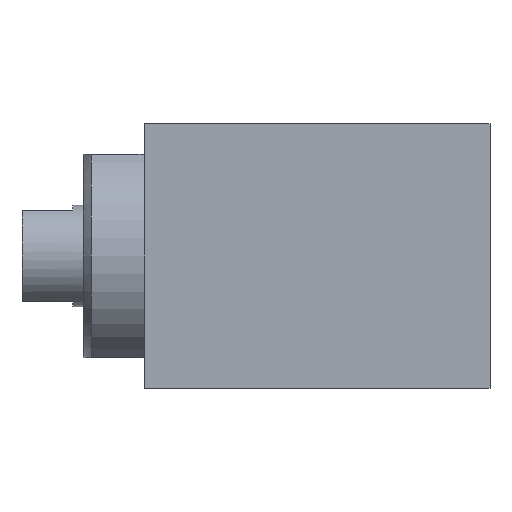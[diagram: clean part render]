
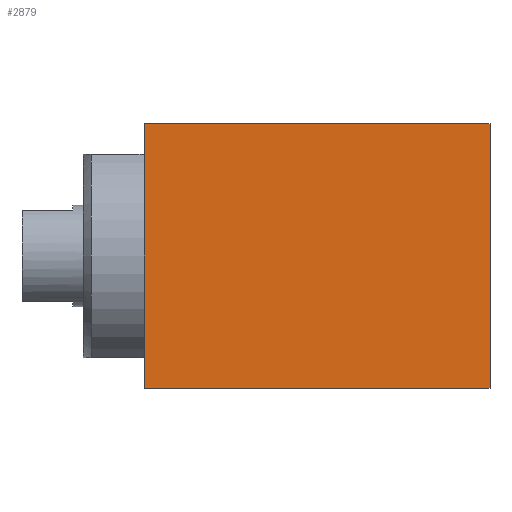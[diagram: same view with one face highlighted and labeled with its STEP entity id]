
A CAD part, front view. The second image highlights one B-rep face of the part: STEP entity #2879.
In plain terms, the highlighted planar face has unit normal (0, -1, 0).
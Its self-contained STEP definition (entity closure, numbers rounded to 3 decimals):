
#246 = DIRECTION ( 'NONE',  ( 1., 0., 0. ) ) ;
#265 = EDGE_LOOP ( 'NONE', ( #2581, #2958, #1994, #1756 ) ) ;
#394 = VERTEX_POINT ( 'NONE', #1033 ) ;
#423 = CARTESIAN_POINT ( 'NONE',  ( 17., -11., -6.5 ) ) ;
#481 = EDGE_CURVE ( 'NONE', #771, #1371, #2521, .T. ) ;
#694 = EDGE_CURVE ( 'NONE', #1371, #394, #3006, .T. ) ;
#725 = EDGE_CURVE ( 'NONE', #771, #2413, #1415, .T. ) ;
#741 = CARTESIAN_POINT ( 'NONE',  ( 0., -11., -6.5 ) ) ;
#771 = VERTEX_POINT ( 'NONE', #900 ) ;
#900 = CARTESIAN_POINT ( 'NONE',  ( 17., -11., -6.5 ) ) ;
#911 = DIRECTION ( 'NONE',  ( 0., 0., 1. ) ) ;
#1033 = CARTESIAN_POINT ( 'NONE',  ( 0., -11., 6.5 ) ) ;
#1140 = DIRECTION ( 'NONE',  ( -1., 0., 0. ) ) ;
#1159 = CARTESIAN_POINT ( 'NONE',  ( 17., -11., -6.5 ) ) ;
#1196 = DIRECTION ( 'NONE',  ( 0., -1., 0. ) ) ;
#1211 = VECTOR ( 'NONE', #2802, 1000. ) ;
#1327 = CARTESIAN_POINT ( 'NONE',  ( 17., -11., -6.5 ) ) ;
#1331 = DIRECTION ( 'NONE',  ( 0., 0., 1. ) ) ;
#1371 = VERTEX_POINT ( 'NONE', #2511 ) ;
#1415 = LINE ( 'NONE', #423, #2434 ) ;
#1564 = PLANE ( 'NONE',  #2699 ) ;
#1756 = ORIENTED_EDGE ( 'NONE', *, *, #2480, .T. ) ;
#1787 = VECTOR ( 'NONE', #1331, 1000. ) ;
#1994 = ORIENTED_EDGE ( 'NONE', *, *, #725, .T. ) ;
#2021 = FACE_OUTER_BOUND ( 'NONE', #265, .T. ) ;
#2090 = VECTOR ( 'NONE', #1140, 1000. ) ;
#2096 = LINE ( 'NONE', #2318, #2090 ) ;
#2318 = CARTESIAN_POINT ( 'NONE',  ( 17., -11., 6.5 ) ) ;
#2413 = VERTEX_POINT ( 'NONE', #2516 ) ;
#2434 = VECTOR ( 'NONE', #911, 1000. ) ;
#2480 = EDGE_CURVE ( 'NONE', #2413, #394, #2096, .T. ) ;
#2511 = CARTESIAN_POINT ( 'NONE',  ( 0., -11., -6.5 ) ) ;
#2516 = CARTESIAN_POINT ( 'NONE',  ( 17., -11., 6.5 ) ) ;
#2521 = LINE ( 'NONE', #1159, #1211 ) ;
#2581 = ORIENTED_EDGE ( 'NONE', *, *, #694, .F. ) ;
#2699 = AXIS2_PLACEMENT_3D ( 'NONE', #1327, #1196, #246 ) ;
#2802 = DIRECTION ( 'NONE',  ( -1., 0., 0. ) ) ;
#2879 = ADVANCED_FACE ( 'NONE', ( #2021 ), #1564, .T. ) ;
#2958 = ORIENTED_EDGE ( 'NONE', *, *, #481, .F. ) ;
#3006 = LINE ( 'NONE', #741, #1787 ) ;
